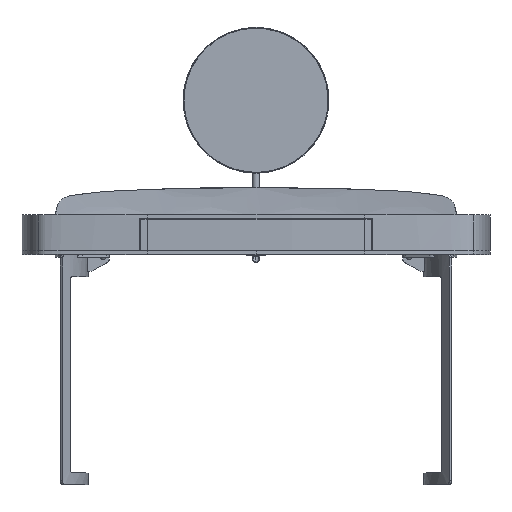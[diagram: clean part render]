
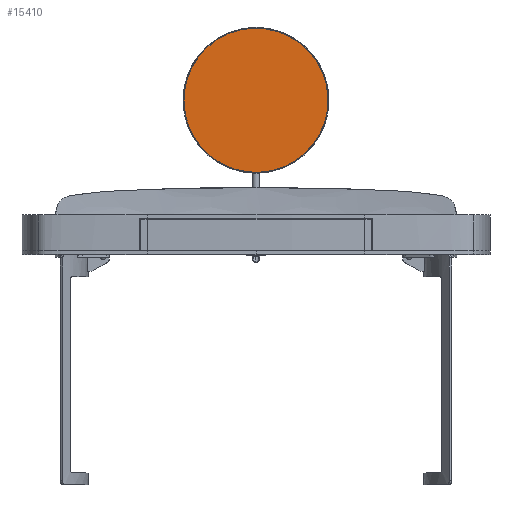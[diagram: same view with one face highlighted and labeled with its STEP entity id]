
A CAD part, top view. The second image highlights one B-rep face of the part: STEP entity #15410.
In plain terms, the highlighted planar face has unit normal (0, 0, 1) as drawn and (0, 1, 0) by its records, which use the part's own axes.
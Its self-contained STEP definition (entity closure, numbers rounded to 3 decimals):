
#751 = EDGE_CURVE ( 'NONE', #17187, #3201, #5479, .T. ) ;
#1128 = DIRECTION ( 'NONE',  ( 0., 1., 0. ) ) ;
#3201 = VERTEX_POINT ( 'NONE', #15084 ) ;
#3717 = ORIENTED_EDGE ( 'NONE', *, *, #751, .T. ) ;
#5479 = CIRCLE ( 'NONE', #11837, 200.5 ) ;
#5747 = CARTESIAN_POINT ( 'NONE',  ( 0., 4., 0. ) ) ;
#6675 = CARTESIAN_POINT ( 'NONE',  ( 0., 4., -200.5 ) ) ;
#7176 = AXIS2_PLACEMENT_3D ( 'NONE', #13698, #18245, #10731 ) ;
#7676 = PLANE ( 'NONE',  #7176 ) ;
#7710 = EDGE_LOOP ( 'NONE', ( #3717, #12861 ) ) ;
#8476 = DIRECTION ( 'NONE',  ( 0., 0., 1. ) ) ;
#8638 = DIRECTION ( 'NONE',  ( 0., 0., 1. ) ) ;
#9851 = CIRCLE ( 'NONE', #11105, 200.5 ) ;
#10731 = DIRECTION ( 'NONE',  ( 0., 0., 1. ) ) ;
#11105 = AXIS2_PLACEMENT_3D ( 'NONE', #5747, #16160, #8638 ) ;
#11837 = AXIS2_PLACEMENT_3D ( 'NONE', #14697, #1128, #8476 ) ;
#12861 = ORIENTED_EDGE ( 'NONE', *, *, #13404, .T. ) ;
#13404 = EDGE_CURVE ( 'NONE', #3201, #17187, #9851, .T. ) ;
#13698 = CARTESIAN_POINT ( 'NONE',  ( 0., 4., 0. ) ) ;
#14697 = CARTESIAN_POINT ( 'NONE',  ( 0., 4., 0. ) ) ;
#15084 = CARTESIAN_POINT ( 'NONE',  ( 0., 4., 200.5 ) ) ;
#15410 = ADVANCED_FACE ( 'NONE', ( #16682 ), #7676, .T. ) ;
#16160 = DIRECTION ( 'NONE',  ( 0., 1., 0. ) ) ;
#16682 = FACE_OUTER_BOUND ( 'NONE', #7710, .T. ) ;
#17187 = VERTEX_POINT ( 'NONE', #6675 ) ;
#18245 = DIRECTION ( 'NONE',  ( 0., 1., 0. ) ) ;
